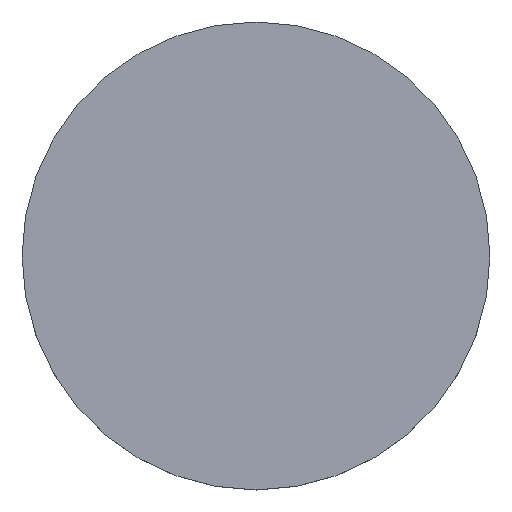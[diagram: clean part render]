
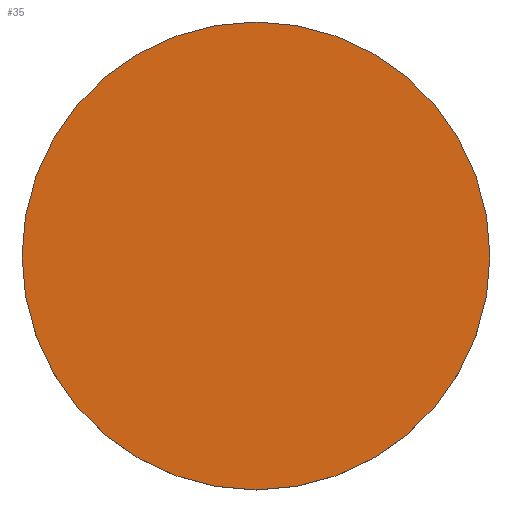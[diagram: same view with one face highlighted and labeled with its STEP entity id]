
A CAD part, top view. The second image highlights one B-rep face of the part: STEP entity #35.
In plain terms, the highlighted planar face has unit normal (0, 0, 1).
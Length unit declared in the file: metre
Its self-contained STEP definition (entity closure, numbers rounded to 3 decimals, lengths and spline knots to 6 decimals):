
#13=PLANE('',#45);
#17=ORIENTED_EDGE('',*,*,#19,.F.);
#19=EDGE_CURVE('',#21,#21,#23,.T.);
#21=VERTEX_POINT('',#63);
#23=CIRCLE('',#43,0.0009);
#27=EDGE_LOOP('',(#17));
#31=FACE_BOUND('',#27,.T.);
#35=ADVANCED_FACE('',(#31),#13,.F.);
#43=AXIS2_PLACEMENT_3D('',#62,#52,#53);
#45=AXIS2_PLACEMENT_3D('',#65,#56,#57);
#52=DIRECTION('',(0.,0.,-1.));
#53=DIRECTION('',(0.,1.,0.));
#56=DIRECTION('',(0.,0.,-1.));
#57=DIRECTION('',(-1.,0.,0.));
#62=CARTESIAN_POINT('',(0.012498,-0.00001,-0.0315));
#63=CARTESIAN_POINT('',(0.013398,-0.00001,-0.0315));
#65=CARTESIAN_POINT('',(0.016895,-0.014649,-0.0315));
